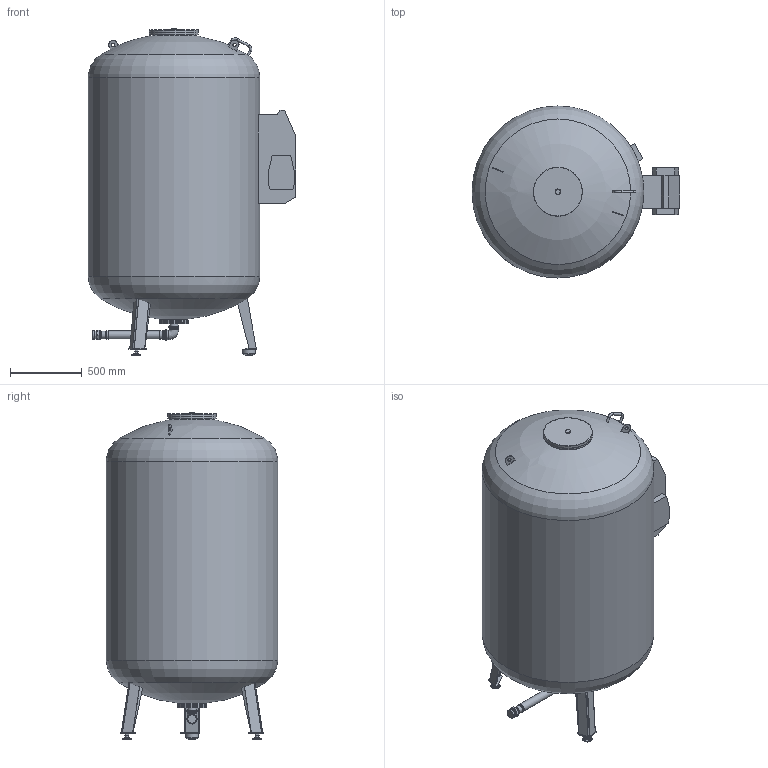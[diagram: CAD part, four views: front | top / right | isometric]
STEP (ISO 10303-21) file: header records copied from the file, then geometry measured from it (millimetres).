
FILE_DESCRIPTION(/* description */ (''),/* implementation_level */ '2;1');
FILE_NAME(/* name */ '\\DATASERVER\data\Flamco\3D-Modellen\Inventor\Flamcomat\2021_Flamcomat MK-U G4\flamcomat_mk-u_g4_2000_10.stp',/* time_stamp */ '2021-11-29T10:49:32+01:00',/* author */ ('kasius'),/* organization */ (''),/* preprocessor_version */ 'ST-DEVELOPER v17',/* originating_system */ 'Autodesk Inventor 2018',/* authorisation */ '');
FILE_SCHEMA (('AUTOMOTIVE_DESIGN { 1 0 10303 214 3 1 1 }'));
Length unit declared in the file: millimetre
Products named in the file (1): flamcomat_mk-u_g4_2000_10
Bounding box: 1453.04 x 1200 x 2280.5 mm (x, y, z)
Volume: 2071254106.1 mm3; surface area: 9674708.5 mm2
Topology: 5 solids, 5 shells, 289 faces, 767 edges, 521 vertices
Faces by surface type: plane 163, cone 63, cylinder 55, torus 4, bspline 2, sphere 2
Full cylindrical faces by diameter (mm): 16 x5, 20 x2, 24 x2, 33 x2, 38.75 x1, 47.67 x1, 52.97 x1, 53.97 x1, 56.07 x1, 57.97 x1, 58.97 x2, 59.97 x1, 60.3 x1, 65 x4, 68.51 x1, 71 x1, 90 x1, 162 x1, 198 x2, 306 x1, 342 x2, 1200 x1
Entity records: 9450 total; most frequent: CARTESIAN_POINT 1871, DIRECTION 1577, ORIENTED_EDGE 1534, EDGE_CURVE 767, AXIS2_PLACEMENT_3D 588, VERTEX_POINT 521, LINE 401, VECTOR 401
